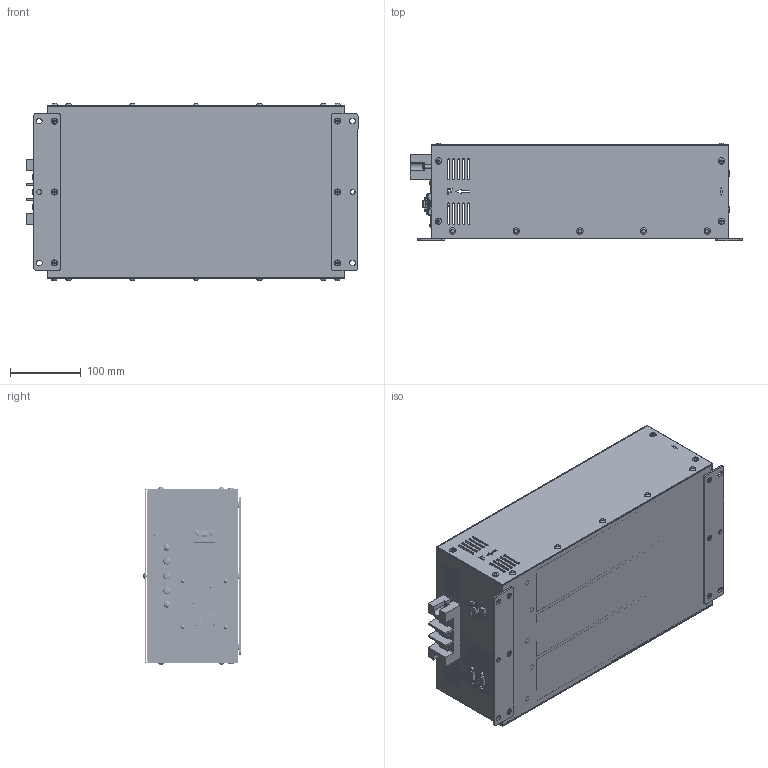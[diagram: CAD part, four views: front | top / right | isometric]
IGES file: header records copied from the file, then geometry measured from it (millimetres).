
Global section: file name: VX3COM; native system: Autodesk Inventor 2021; preprocessor: unknown; author: eunsol jang; date: 20240723.102838; units: inch
Bounding box: 468 x 137.59 x 250.09 mm (x, y, z)
Volume: 9665176.7 mm3; surface area: 1213274.2 mm2
Topology: 13 solids, 13 shells, 4498 faces, 13430 edges, 9311 vertices
Faces by surface type: bspline 4498
